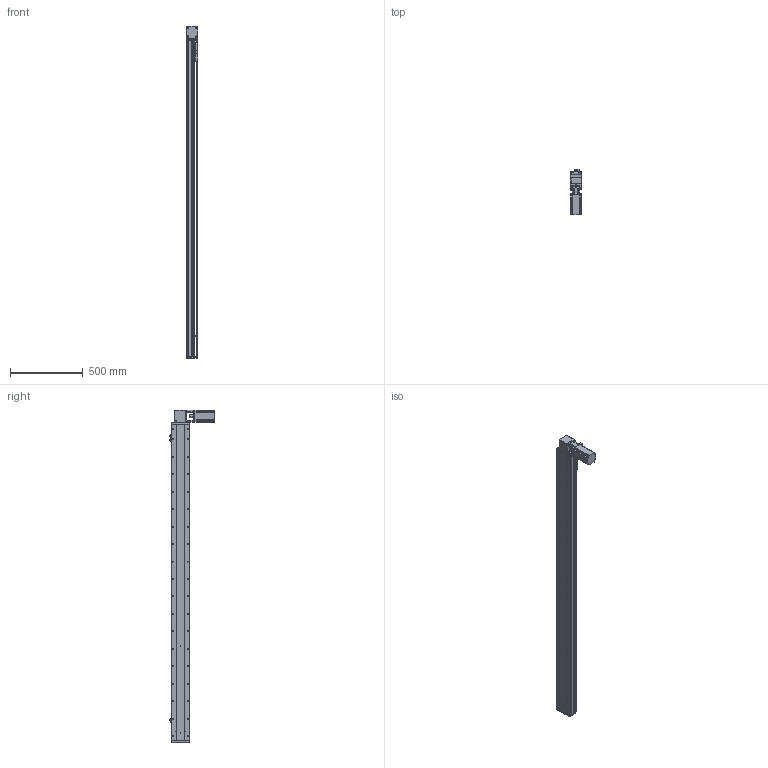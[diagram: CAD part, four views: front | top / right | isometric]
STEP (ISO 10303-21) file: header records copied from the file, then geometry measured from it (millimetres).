
FILE_DESCRIPTION (( 'STEP AP214' ), '1' );
FILE_NAME ('KSD130B-S1950-MRT-CM.STEP', '2019-11-16T05:24:27', ( '微软用户' ), ( '微软中国' ), 'SwSTEP 2.0', 'SolidWorks 2014', '' );
FILE_SCHEMA (( 'AUTOMOTIVE_DESIGN' ));
Length unit declared in the file: millimetre
Products named in the file (12): KSD130B-S1950-MRT-CM; 台达ECMA－C20807AS伺服电机; 130宽马达安装板1-带电机座750W（1）; 覜茼え100遵圉猾敕; U倰嫖萇EEㄜSX672; 130宽安装板同步带带电机座750W; 130宽盖板半封闭同步带-1950行程; 130宽马达安装板同步带左-改; 130宽马达安装板同步带半封闭; 130宽同步带安装座半封闭; 130宽端盖同步带半封闭; 130宽底板半封闭同步带-1950行程
Assembly tree (13 placements, depth 2):
  KSD130B-S1950-MRT-CM
    130宽底板半封闭同步带-1950行程
    130宽端盖同步带半封闭
    130宽同步带安装座半封闭
    130宽马达安装板同步带半封闭
    130宽马达安装板同步带左-改
    130宽盖板半封闭同步带-1950行程
    130宽安装板同步带带电机座750W
    U倰嫖萇EEㄜSX672  x3
    覜茼え100遵圉猾敕
    130宽马达安装板1-带电机座750W（1）
    台达ECMA－C20807AS伺服电机
Bounding box: 81 x 316 x 2283 mm (x, y, z)
Volume: 7525468.5 mm3; surface area: 2099431.9 mm2
Topology: 14 solids, 14 shells, 1769 faces, 5172 edges, 3271 vertices
Faces by surface type: cylinder 883, plane 641, cone 245
Entity records: 60855 total; most frequent: CARTESIAN_POINT 11913, DIRECTION 9142, ORIENTED_EDGE 8852, EDGE_CURVE 4426, AXIS2_PLACEMENT_3D 3392, VERTEX_POINT 2895, LINE 2358, VECTOR 2358
